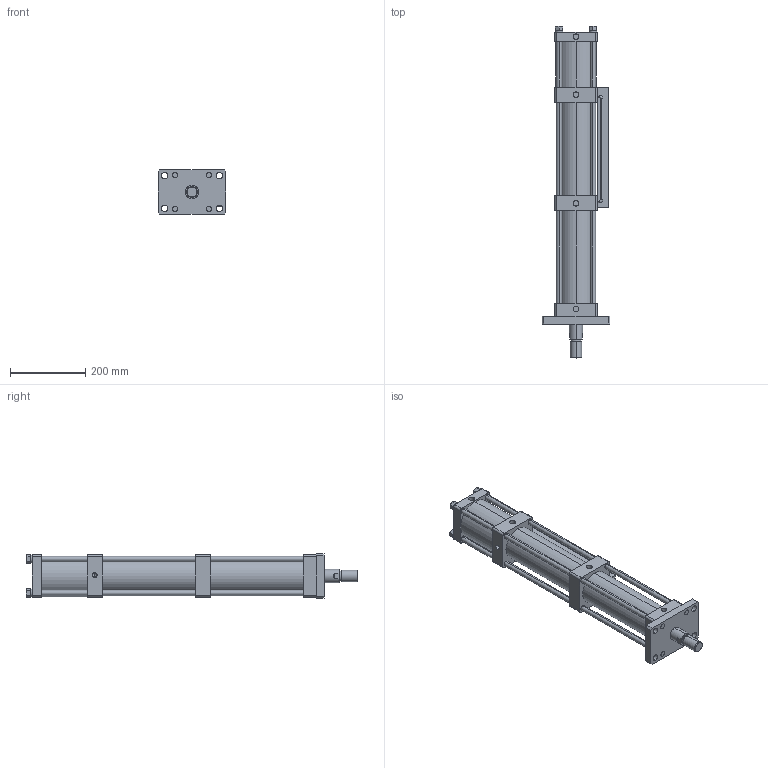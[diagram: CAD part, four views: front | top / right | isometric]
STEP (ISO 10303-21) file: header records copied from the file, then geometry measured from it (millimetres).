
FILE_DESCRIPTION (( 'STEP AP203' ), '1' );
FILE_NAME ('MPTF-80-200-5-5T.STEP', '2016-03-29T10:06:37', ( 'WIN' ), ( '' ), 'SwSTEP 2.0', 'SolidWorks 2014', '' );
FILE_SCHEMA (( 'CONFIG_CONTROL_DESIGN' ));
Length unit declared in the file: millimetre
Products named in the file (1): MPTF-80-200-5-5T
Bounding box: 180 x 880 x 118 mm (x, y, z)
Volume: 3712130.8 mm3; surface area: 743470.8 mm2
Topology: 5 solids, 5 shells, 266 faces, 632 edges, 413 vertices
Faces by surface type: cylinder 136, plane 120, cone 6, torus 4
Entity records: 7973 total; most frequent: DIRECTION 1448, CARTESIAN_POINT 1382, ORIENTED_EDGE 1260, EDGE_CURVE 630, AXIS2_PLACEMENT_3D 555, VERTEX_POINT 413, EDGE_LOOP 349, VECTOR 338
